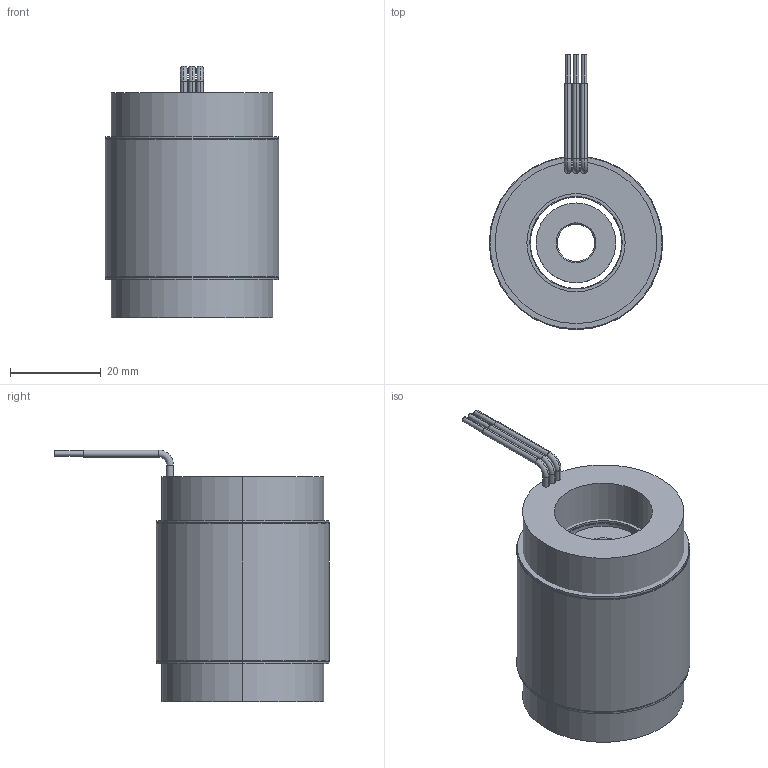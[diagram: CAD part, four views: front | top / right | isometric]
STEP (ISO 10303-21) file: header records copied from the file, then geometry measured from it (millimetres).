
FILE_DESCRIPTION (( 'STEP AP214' ), '1' );
FILE_NAME ('6100250-04.STEP', '2019-11-11T16:39:47', ( '' ), ( '' ), 'SwSTEP 2.0', 'SolidWorks 2016', '' );
FILE_SCHEMA (( 'AUTOMOTIVE_DESIGN' ));
Length unit declared in the file: millimetre
Products named in the file (10): 4150139-XX_4150139-02; 4450148-XX_4450148-02; 4500511-XX_4500511-04; 4400021-00; 4600089-00; 6100250-04; COMP4500511-XX(COIL)_COMP4500511-04(COIL); 4250335-XX_4250335-02
Assembly tree (10 placements, depth 4):
  6100250-04
    4500511-XX_4500511-04
      4450148-XX_4450148-02
        4450148-XX_4450148-02
        4400021-00
        4400021-00
        4600089-00  x2
      COMP4500511-XX(COIL)_COMP4500511-04(COIL)
    4250335-XX_4250335-02
      4150139-XX_4150139-02
Bounding box: 38.1 x 60.45 x 55.37 mm (x, y, z)
Volume: 62850.8 mm3; surface area: 27288.4 mm2
Topology: 7 solids, 7 shells, 76 faces, 152 edges, 96 vertices
Faces by surface type: cylinder 46, plane 20, torus 6, cone 4
Entity records: 2246 total; most frequent: DIRECTION 406, CARTESIAN_POINT 314, ORIENTED_EDGE 280, AXIS2_PLACEMENT_3D 180, EDGE_CURVE 140, CIRCLE 94, EDGE_LOOP 88, VERTEX_POINT 88
